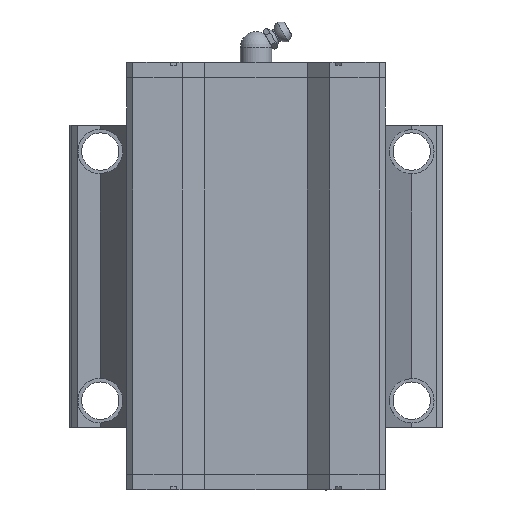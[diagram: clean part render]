
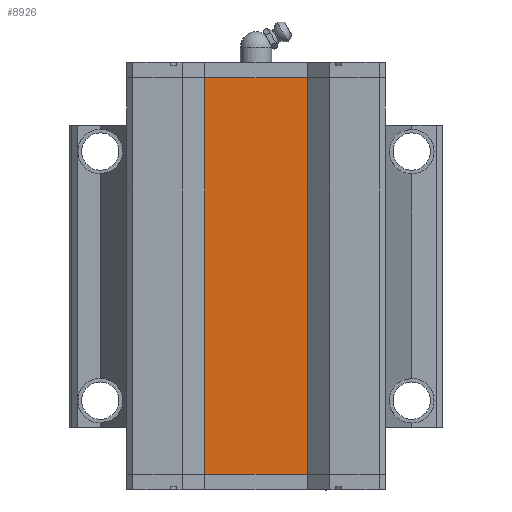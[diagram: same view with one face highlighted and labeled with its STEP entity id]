
A CAD part, front view. The second image highlights one B-rep face of the part: STEP entity #8926.
In plain terms, the highlighted planar face has unit normal (0, -1, 0).
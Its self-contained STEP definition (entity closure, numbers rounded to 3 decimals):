
#27 = EDGE_CURVE ( 'NONE', #9356, #9372, #10105, .T. ) ;
#28 = EDGE_CURVE ( 'NONE', #9372, #213, #10099, .T. ) ;
#30 = EDGE_CURVE ( 'NONE', #213, #212, #10111, .T. ) ;
#212 = VERTEX_POINT ( 'NONE', #8266 ) ;
#213 = VERTEX_POINT ( 'NONE', #8268 ) ;
#1193 = CARTESIAN_POINT ( 'NONE',  ( 16.515, 28.5, -63.65 ) ) ;
#1200 = PLANE ( 'NONE',  #7946 ) ;
#1202 = DIRECTION ( 'NONE',  ( 0., 1., 0. ) ) ;
#1203 = DIRECTION ( 'NONE',  ( 0., 0., 1. ) ) ;
#2836 = LINE ( 'NONE', #3894, #2856 ) ;
#2856 = VECTOR ( 'NONE', #3898, 1000. ) ;
#3894 = CARTESIAN_POINT ( 'NONE',  ( 16.515, 28.5, -63.65 ) ) ;
#3898 = DIRECTION ( 'NONE',  ( -1., 0., 0. ) ) ;
#4208 = CARTESIAN_POINT ( 'NONE',  ( -16.515, 28.5, -63.65 ) ) ;
#4223 = CARTESIAN_POINT ( 'NONE',  ( -16.515, 28.5, 63.65 ) ) ;
#5228 = FACE_OUTER_BOUND ( 'NONE', #6192, .T. ) ;
#6192 = EDGE_LOOP ( 'NONE', ( #11637, #11638, #11639, #11640 ) ) ;
#7946 = AXIS2_PLACEMENT_3D ( 'NONE', #1193, #1202, #1203 ) ;
#8167 = CARTESIAN_POINT ( 'NONE',  ( 16.515, 28.5, 63.65 ) ) ;
#8180 = CARTESIAN_POINT ( 'NONE',  ( -16.515, 28.5, -63.65 ) ) ;
#8181 = DIRECTION ( 'NONE',  ( 0., 0., 1. ) ) ;
#8182 = DIRECTION ( 'NONE',  ( 1., 0., 0. ) ) ;
#8184 = CARTESIAN_POINT ( 'NONE',  ( 16.515, 28.5, -63.65 ) ) ;
#8186 = DIRECTION ( 'NONE',  ( 0., 0., -1. ) ) ;
#8266 = CARTESIAN_POINT ( 'NONE',  ( 16.515, 28.5, -63.65 ) ) ;
#8268 = CARTESIAN_POINT ( 'NONE',  ( 16.515, 28.5, 63.65 ) ) ;
#8926 = ADVANCED_FACE ( 'NONE', ( #5228 ), #1200, .F. ) ;
#9356 = VERTEX_POINT ( 'NONE', #4208 ) ;
#9372 = VERTEX_POINT ( 'NONE', #4223 ) ;
#10099 = LINE ( 'NONE', #8167, #10110 ) ;
#10105 = LINE ( 'NONE', #8180, #10108 ) ;
#10108 = VECTOR ( 'NONE', #8181, 1000. ) ;
#10110 = VECTOR ( 'NONE', #8182, 1000. ) ;
#10111 = LINE ( 'NONE', #8184, #10114 ) ;
#10114 = VECTOR ( 'NONE', #8186, 1000. ) ;
#10912 = EDGE_CURVE ( 'NONE', #212, #9356, #2836, .T. ) ;
#11637 = ORIENTED_EDGE ( 'NONE', *, *, #28, .F. ) ;
#11638 = ORIENTED_EDGE ( 'NONE', *, *, #27, .F. ) ;
#11639 = ORIENTED_EDGE ( 'NONE', *, *, #10912, .F. ) ;
#11640 = ORIENTED_EDGE ( 'NONE', *, *, #30, .F. ) ;
